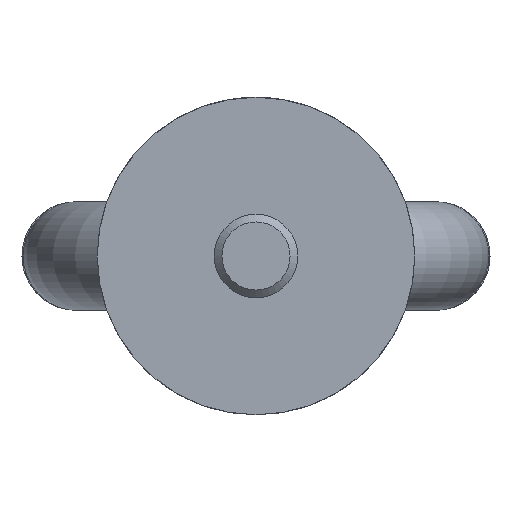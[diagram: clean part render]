
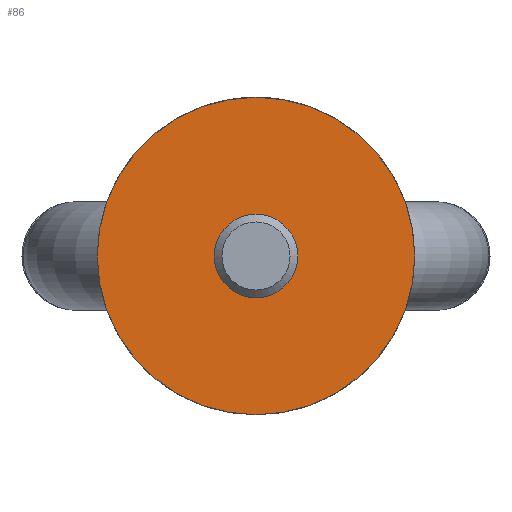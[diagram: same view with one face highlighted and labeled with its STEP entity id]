
A CAD part, front view. The second image highlights one B-rep face of the part: STEP entity #86.
In plain terms, the highlighted planar face has unit normal (0, -1, 0).
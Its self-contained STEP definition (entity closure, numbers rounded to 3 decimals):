
#86 = ADVANCED_FACE( '', ( #132, #133 ), #134, .F. );
#132 = FACE_BOUND( '', #200, .T. );
#133 = FACE_OUTER_BOUND( '', #201, .T. );
#134 = PLANE( '', #202 );
#200 = EDGE_LOOP( '', ( #307 ) );
#201 = EDGE_LOOP( '', ( #308 ) );
#202 = AXIS2_PLACEMENT_3D( '', #309, #310, #311 );
#307 = ORIENTED_EDGE( '', *, *, #413, .T. );
#308 = ORIENTED_EDGE( '', *, *, #427, .T. );
#309 = CARTESIAN_POINT( '', ( 19., 0., 0. ) );
#310 = DIRECTION( '', ( 0., 1., 0. ) );
#311 = DIRECTION( '', ( 0., 0., 1. ) );
#413 = EDGE_CURVE( '', #471, #471, #472, .T. );
#427 = EDGE_CURVE( '', #496, #496, #497, .T. );
#471 = VERTEX_POINT( '', #897 );
#472 = CIRCLE( '', #898, 5. );
#496 = VERTEX_POINT( '', #936 );
#497 = CIRCLE( '', #937, 19. );
#897 = CARTESIAN_POINT( '', ( 0., 0., 5. ) );
#898 = AXIS2_PLACEMENT_3D( '', #1031, #1032, #1033 );
#936 = CARTESIAN_POINT( '', ( 0., 0., -19. ) );
#937 = AXIS2_PLACEMENT_3D( '', #1054, #1055, #1056 );
#1031 = CARTESIAN_POINT( '', ( 0., 0., 0. ) );
#1032 = DIRECTION( '', ( 0., 1., 0. ) );
#1033 = DIRECTION( '', ( 0., 0., 1. ) );
#1054 = CARTESIAN_POINT( '', ( 0., 0., 0. ) );
#1055 = DIRECTION( '', ( 0., -1., 0. ) );
#1056 = DIRECTION( '', ( 0., 0., -1. ) );
